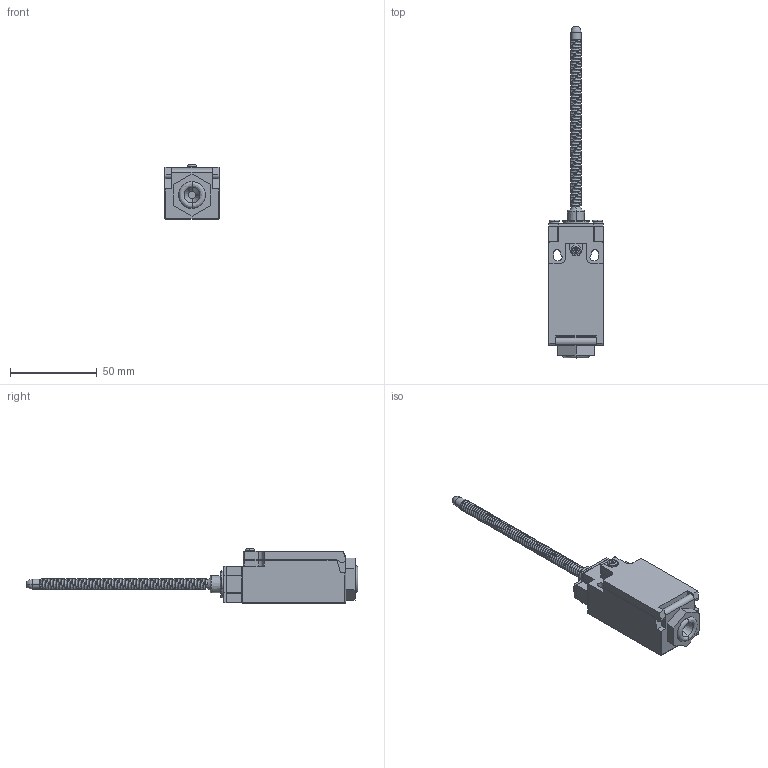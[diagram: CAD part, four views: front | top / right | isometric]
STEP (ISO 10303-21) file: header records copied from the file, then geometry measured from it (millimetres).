
FILE_DESCRIPTION (( 'STEP AP203' ), '1' );
FILE_NAME ('FM9267.STEP', '2018-06-01T17:00:34', ( '' ), ( '' ), 'SwSTEP 2.0', 'SolidWorks 2012', '' );
FILE_SCHEMA (( 'CONFIG_CONTROL_DESIGN' ));
Length unit declared in the file: millimetre
Products named in the file (1): FM9267
Bounding box: 31.5 x 191.9 x 31.5 mm (x, y, z)
Volume: 63020.9 mm3; surface area: 16904.9 mm2
Topology: 1 solids, 1 shells, 249 faces, 665 edges, 418 vertices
Faces by surface type: plane 152, cylinder 56, torus 25, cone 8, sphere 4, bspline 4
Entity records: 19736 total; most frequent: CARTESIAN_POINT 13460, ORIENTED_EDGE 1322, DIRECTION 1271, EDGE_CURVE 661, LINE 429, VECTOR 429, AXIS2_PLACEMENT_3D 421, VERTEX_POINT 418
